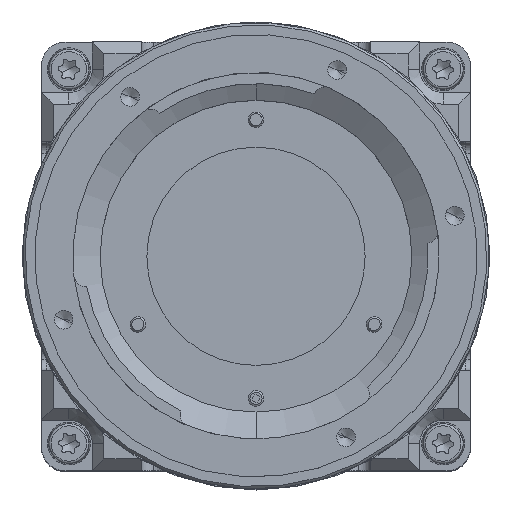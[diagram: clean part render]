
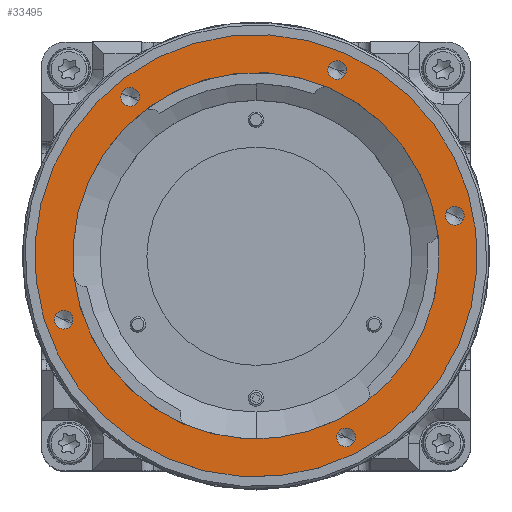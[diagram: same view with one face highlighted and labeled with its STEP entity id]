
A CAD part, top view. The second image highlights one B-rep face of the part: STEP entity #33495.
In plain terms, the highlighted planar face has unit normal (0, 0, 1).
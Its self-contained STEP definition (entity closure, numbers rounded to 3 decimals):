
#721 = DIRECTION ( 'NONE',  ( 0.916, -0.401, 0. ) ) ;
#1138 = CIRCLE ( 'NONE', #18118, 1.2 ) ;
#1277 = DIRECTION ( 'NONE',  ( 0., 0., 1. ) ) ;
#3042 = VERTEX_POINT ( 'NONE', #131089 ) ;
#3197 = DIRECTION ( 'NONE',  ( 0., 0., 1. ) ) ;
#3953 = FACE_BOUND ( 'NONE', #47753, .T. ) ;
#5979 = CARTESIAN_POINT ( 'NONE',  ( 25.488, 5.132, 54.344 ) ) ;
#7216 = ORIENTED_EDGE ( 'NONE', *, *, #79031, .F. ) ;
#8996 = ORIENTED_EDGE ( 'NONE', *, *, #27777, .T. ) ;
#11936 = VERTEX_POINT ( 'NONE', #139211 ) ;
#14961 = CIRCLE ( 'NONE', #53778, 1.2 ) ;
#15295 = CARTESIAN_POINT ( 'NONE',  ( 9.414, 21.532, 54.344 ) ) ;
#16347 = EDGE_CURVE ( 'NONE', #117261, #146501, #95027, .T. ) ;
#18118 = AXIS2_PLACEMENT_3D ( 'NONE', #32215, #30746, #43602 ) ;
#20262 = FACE_BOUND ( 'NONE', #142154, .T. ) ;
#20393 = CIRCLE ( 'NONE', #100932, 28.375 ) ;
#23169 = AXIS2_PLACEMENT_3D ( 'NONE', #134905, #30591, #123493 ) ;
#24741 = ORIENTED_EDGE ( 'NONE', *, *, #16347, .F. ) ;
#25521 = CARTESIAN_POINT ( 'NONE',  ( -21.532, 9.414, 54.344 ) ) ;
#27777 = EDGE_CURVE ( 'NONE', #3042, #123520, #52263, .T. ) ;
#28051 = EDGE_CURVE ( 'NONE', #123520, #3042, #20393, .T. ) ;
#28711 = CARTESIAN_POINT ( 'NONE',  ( 21.532, -9.414, 54.344 ) ) ;
#29533 = CARTESIAN_POINT ( 'NONE',  ( 25.488, 5.132, 54.344 ) ) ;
#30229 = PLANE ( 'NONE',  #50314 ) ;
#30270 = DIRECTION ( 'NONE',  ( 0.916, -0.401, 0. ) ) ;
#30591 = DIRECTION ( 'NONE',  ( 0., 0., 1. ) ) ;
#30746 = DIRECTION ( 'NONE',  ( 0., 0., 1. ) ) ;
#32215 = CARTESIAN_POINT ( 'NONE',  ( -24.673, -8.2, 54.344 ) ) ;
#33311 = CARTESIAN_POINT ( 'NONE',  ( 0., 0., 54.344 ) ) ;
#33495 = ADVANCED_FACE ( 'NONE', ( #3953, #20262, #53775, #131023, #133820, #43096, #111703 ), #30229, .F. ) ;
#34241 = VERTEX_POINT ( 'NONE', #125552 ) ;
#36218 = AXIS2_PLACEMENT_3D ( 'NONE', #74167, #1277, #39186 ) ;
#39186 = DIRECTION ( 'NONE',  ( 0.916, -0.401, 0. ) ) ;
#40698 = ORIENTED_EDGE ( 'NONE', *, *, #89384, .F. ) ;
#40932 = CARTESIAN_POINT ( 'NONE',  ( -24.673, -8.2, 54.344 ) ) ;
#43096 = FACE_BOUND ( 'NONE', #134700, .T. ) ;
#43371 = ORIENTED_EDGE ( 'NONE', *, *, #100927, .F. ) ;
#43602 = DIRECTION ( 'NONE',  ( 0.916, -0.401, 0. ) ) ;
#46514 = CIRCLE ( 'NONE', #114662, 1.2 ) ;
#46584 = CIRCLE ( 'NONE', #63551, 1.2 ) ;
#47753 = EDGE_LOOP ( 'NONE', ( #24741, #135454 ) ) ;
#48606 = AXIS2_PLACEMENT_3D ( 'NONE', #5979, #133803, #145226 ) ;
#49470 = VERTEX_POINT ( 'NONE', #25521 ) ;
#50063 = EDGE_CURVE ( 'NONE', #34241, #11936, #51049, .T. ) ;
#50314 = AXIS2_PLACEMENT_3D ( 'NONE', #15295, #76654, #108143 ) ;
#51049 = CIRCLE ( 'NONE', #48606, 1.2 ) ;
#52247 = CARTESIAN_POINT ( 'NONE',  ( 0., 0., 54.344 ) ) ;
#52263 = CIRCLE ( 'NONE', #23169, 28.375 ) ;
#53312 = CIRCLE ( 'NONE', #36218, 1.2 ) ;
#53775 = FACE_BOUND ( 'NONE', #54595, .T. ) ;
#53778 = AXIS2_PLACEMENT_3D ( 'NONE', #83712, #3197, #107383 ) ;
#53792 = VERTEX_POINT ( 'NONE', #82513 ) ;
#54532 = EDGE_CURVE ( 'NONE', #118680, #49470, #126420, .T. ) ;
#54595 = EDGE_LOOP ( 'NONE', ( #43371, #87348 ) ) ;
#55757 = CARTESIAN_POINT ( 'NONE',  ( -25.773, -7.719, 54.344 ) ) ;
#55922 = EDGE_CURVE ( 'NONE', #148817, #129657, #46584, .T. ) ;
#60000 = CIRCLE ( 'NONE', #103851, 23.5 ) ;
#61577 = VERTEX_POINT ( 'NONE', #145136 ) ;
#61812 = ORIENTED_EDGE ( 'NONE', *, *, #108521, .F. ) ;
#63171 = CARTESIAN_POINT ( 'NONE',  ( 10.454, -22.811, 54.344 ) ) ;
#63551 = AXIS2_PLACEMENT_3D ( 'NONE', #40932, #65236, #99555 ) ;
#65236 = DIRECTION ( 'NONE',  ( 0., 0., 1. ) ) ;
#65700 = AXIS2_PLACEMENT_3D ( 'NONE', #65998, #123207, #111777 ) ;
#65730 = EDGE_CURVE ( 'NONE', #146501, #117261, #133977, .T. ) ;
#65998 = CARTESIAN_POINT ( 'NONE',  ( 10.416, 23.822, 54.344 ) ) ;
#66144 = VERTEX_POINT ( 'NONE', #128823 ) ;
#66809 = EDGE_CURVE ( 'NONE', #143939, #61577, #139336, .T. ) ;
#70552 = CIRCLE ( 'NONE', #126578, 1.2 ) ;
#74167 = CARTESIAN_POINT ( 'NONE',  ( -16.144, 20.381, 54.344 ) ) ;
#74678 = CARTESIAN_POINT ( 'NONE',  ( -16.144, 20.381, 54.344 ) ) ;
#76654 = DIRECTION ( 'NONE',  ( 0., 0., -1. ) ) ;
#77568 = DIRECTION ( 'NONE',  ( 0.916, -0.401, 0. ) ) ;
#78108 = CARTESIAN_POINT ( 'NONE',  ( 0., 0., 54.344 ) ) ;
#79031 = EDGE_CURVE ( 'NONE', #49470, #118680, #60000, .T. ) ;
#79717 = DIRECTION ( 'NONE',  ( 0., 0., 1. ) ) ;
#82513 = CARTESIAN_POINT ( 'NONE',  ( -17.244, 20.861, 54.344 ) ) ;
#83712 = CARTESIAN_POINT ( 'NONE',  ( 11.554, -23.292, 54.344 ) ) ;
#87348 = ORIENTED_EDGE ( 'NONE', *, *, #66809, .F. ) ;
#89384 = EDGE_CURVE ( 'NONE', #129657, #148817, #1138, .T. ) ;
#90256 = DIRECTION ( 'NONE',  ( 0.916, -0.401, 0. ) ) ;
#90307 = DIRECTION ( 'NONE',  ( 0., 0., 1. ) ) ;
#92632 = EDGE_LOOP ( 'NONE', ( #8996, #99471 ) ) ;
#93556 = ORIENTED_EDGE ( 'NONE', *, *, #55922, .F. ) ;
#95027 = CIRCLE ( 'NONE', #139214, 1.2 ) ;
#95502 = EDGE_LOOP ( 'NONE', ( #61812, #139381 ) ) ;
#99471 = ORIENTED_EDGE ( 'NONE', *, *, #28051, .T. ) ;
#99555 = DIRECTION ( 'NONE',  ( 0.916, -0.401, 0. ) ) ;
#100433 = CARTESIAN_POINT ( 'NONE',  ( 11.554, -23.292, 54.344 ) ) ;
#100535 = DIRECTION ( 'NONE',  ( 0., 0., 1. ) ) ;
#100927 = EDGE_CURVE ( 'NONE', #61577, #143939, #14961, .T. ) ;
#100932 = AXIS2_PLACEMENT_3D ( 'NONE', #78108, #149710, #90256 ) ;
#103851 = AXIS2_PLACEMENT_3D ( 'NONE', #52247, #132283, #121595 ) ;
#107383 = DIRECTION ( 'NONE',  ( 0.916, -0.401, 0. ) ) ;
#108143 = DIRECTION ( 'NONE',  ( -0.916, 0.401, 0. ) ) ;
#108521 = EDGE_CURVE ( 'NONE', #66144, #53792, #70552, .T. ) ;
#111703 = FACE_OUTER_BOUND ( 'NONE', #92632, .T. ) ;
#111777 = DIRECTION ( 'NONE',  ( 0.916, -0.401, 0. ) ) ;
#114662 = AXIS2_PLACEMENT_3D ( 'NONE', #29533, #90307, #30270 ) ;
#114735 = DIRECTION ( 'NONE',  ( 0.916, -0.401, 0. ) ) ;
#117261 = VERTEX_POINT ( 'NONE', #120414 ) ;
#117747 = CARTESIAN_POINT ( 'NONE',  ( -23.574, -8.681, 54.344 ) ) ;
#118680 = VERTEX_POINT ( 'NONE', #28711 ) ;
#120414 = CARTESIAN_POINT ( 'NONE',  ( 11.515, 23.342, 54.344 ) ) ;
#121595 = DIRECTION ( 'NONE',  ( 0.916, -0.401, 0. ) ) ;
#123003 = ORIENTED_EDGE ( 'NONE', *, *, #143332, .F. ) ;
#123207 = DIRECTION ( 'NONE',  ( 0., 0., 1. ) ) ;
#123493 = DIRECTION ( 'NONE',  ( 0.916, -0.401, 0. ) ) ;
#123520 = VERTEX_POINT ( 'NONE', #141034 ) ;
#125552 = CARTESIAN_POINT ( 'NONE',  ( 24.389, 5.613, 54.344 ) ) ;
#126420 = CIRCLE ( 'NONE', #136226, 23.5 ) ;
#126578 = AXIS2_PLACEMENT_3D ( 'NONE', #74678, #100535, #146999 ) ;
#128510 = CARTESIAN_POINT ( 'NONE',  ( 10.416, 23.822, 54.344 ) ) ;
#128823 = CARTESIAN_POINT ( 'NONE',  ( -15.045, 19.9, 54.344 ) ) ;
#129341 = EDGE_LOOP ( 'NONE', ( #93556, #40698 ) ) ;
#129657 = VERTEX_POINT ( 'NONE', #55757 ) ;
#130040 = DIRECTION ( 'NONE',  ( 0., 0., 1. ) ) ;
#131023 = FACE_BOUND ( 'NONE', #129341, .T. ) ;
#131089 = CARTESIAN_POINT ( 'NONE',  ( 25.999, -11.367, 54.344 ) ) ;
#131738 = ORIENTED_EDGE ( 'NONE', *, *, #50063, .F. ) ;
#132283 = DIRECTION ( 'NONE',  ( 0., 0., 1. ) ) ;
#133109 = CARTESIAN_POINT ( 'NONE',  ( 9.316, 24.303, 54.344 ) ) ;
#133803 = DIRECTION ( 'NONE',  ( 0., 0., 1. ) ) ;
#133820 = FACE_BOUND ( 'NONE', #95502, .T. ) ;
#133977 = CIRCLE ( 'NONE', #65700, 1.2 ) ;
#134700 = EDGE_LOOP ( 'NONE', ( #145543, #7216 ) ) ;
#134905 = CARTESIAN_POINT ( 'NONE',  ( 0., 0., 54.344 ) ) ;
#135454 = ORIENTED_EDGE ( 'NONE', *, *, #65730, .F. ) ;
#135478 = DIRECTION ( 'NONE',  ( 0., 0., 1. ) ) ;
#136226 = AXIS2_PLACEMENT_3D ( 'NONE', #33311, #79717, #114735 ) ;
#138424 = EDGE_CURVE ( 'NONE', #53792, #66144, #53312, .T. ) ;
#139211 = CARTESIAN_POINT ( 'NONE',  ( 26.588, 4.651, 54.344 ) ) ;
#139214 = AXIS2_PLACEMENT_3D ( 'NONE', #128510, #130040, #721 ) ;
#139336 = CIRCLE ( 'NONE', #149025, 1.2 ) ;
#139381 = ORIENTED_EDGE ( 'NONE', *, *, #138424, .F. ) ;
#141034 = CARTESIAN_POINT ( 'NONE',  ( -25.999, 11.367, 54.344 ) ) ;
#142154 = EDGE_LOOP ( 'NONE', ( #123003, #131738 ) ) ;
#143332 = EDGE_CURVE ( 'NONE', #11936, #34241, #46514, .T. ) ;
#143939 = VERTEX_POINT ( 'NONE', #63171 ) ;
#145136 = CARTESIAN_POINT ( 'NONE',  ( 12.653, -23.772, 54.344 ) ) ;
#145226 = DIRECTION ( 'NONE',  ( 0.916, -0.401, 0. ) ) ;
#145543 = ORIENTED_EDGE ( 'NONE', *, *, #54532, .F. ) ;
#146501 = VERTEX_POINT ( 'NONE', #133109 ) ;
#146999 = DIRECTION ( 'NONE',  ( 0.916, -0.401, 0. ) ) ;
#148817 = VERTEX_POINT ( 'NONE', #117747 ) ;
#149025 = AXIS2_PLACEMENT_3D ( 'NONE', #100433, #135478, #77568 ) ;
#149710 = DIRECTION ( 'NONE',  ( 0., 0., 1. ) ) ;
